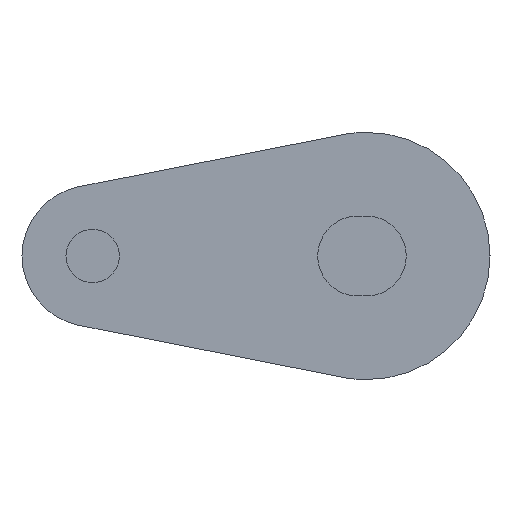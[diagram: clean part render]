
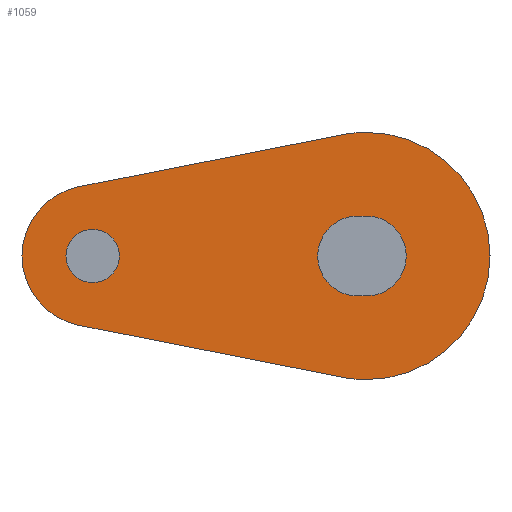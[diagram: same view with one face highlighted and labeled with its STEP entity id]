
A CAD part, left-side view. The second image highlights one B-rep face of the part: STEP entity #1059.
In plain terms, the highlighted planar face has unit normal (-1, 0, 0).
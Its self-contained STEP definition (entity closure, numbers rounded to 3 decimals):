
#1 = EDGE_CURVE ( 'NONE', #388, #339, #942, .T. ) ;
#15 = EDGE_CURVE ( 'NONE', #457, #355, #749, .T. ) ;
#16 = AXIS2_PLACEMENT_3D ( 'NONE', #329, #328, #327 ) ;
#32 = EDGE_CURVE ( 'NONE', #339, #457, #736, .T. ) ;
#53 = EDGE_CURVE ( 'NONE', #392, #388, #725, .T. ) ;
#56 = EDGE_CURVE ( 'NONE', #458, #341, #722, .T. ) ;
#68 = AXIS2_PLACEMENT_3D ( 'NONE', #541, #560, #537 ) ;
#71 = AXIS2_PLACEMENT_3D ( 'NONE', #308, #298, #294 ) ;
#73 = EDGE_CURVE ( 'NONE', #467, #468, #716, .T. ) ;
#74 = AXIS2_PLACEMENT_3D ( 'NONE', #559, #543, #434 ) ;
#81 = EDGE_CURVE ( 'NONE', #468, #343, #724, .T. ) ;
#94 = AXIS2_PLACEMENT_3D ( 'NONE', #472, #471, #470 ) ;
#95 = EDGE_CURVE ( 'NONE', #355, #387, #695, .T. ) ;
#98 = EDGE_CURVE ( 'NONE', #343, #466, #691, .T. ) ;
#109 = EDGE_CURVE ( 'NONE', #466, #467, #682, .T. ) ;
#124 = EDGE_CURVE ( 'NONE', #387, #392, #660, .T. ) ;
#127 = AXIS2_PLACEMENT_3D ( 'NONE', #261, #260, #259 ) ;
#143 = EDGE_CURVE ( 'NONE', #341, #458, #638, .T. ) ;
#153 = AXIS2_PLACEMENT_3D ( 'NONE', #516, #188, #201 ) ;
#155 = AXIS2_PLACEMENT_3D ( 'NONE', #318, #311, #309 ) ;
#160 = AXIS2_PLACEMENT_3D ( 'NONE', #265, #594, #193 ) ;
#164 = DIRECTION ( 'NONE',  ( 0., 0.981, 0.194 ) ) ;
#166 = CARTESIAN_POINT ( 'NONE',  ( -176.5, 16.274, -3.924 ) ) ;
#188 = DIRECTION ( 'NONE',  ( 1., 0., 0. ) ) ;
#193 = DIRECTION ( 'NONE',  ( 0., 0., -1. ) ) ;
#201 = DIRECTION ( 'NONE',  ( 0., 0., -1. ) ) ;
#207 = DIRECTION ( 'NONE',  ( 0., -1., 0. ) ) ;
#208 = CARTESIAN_POINT ( 'NONE',  ( -176.5, 0.5, 2.26 ) ) ;
#258 = CARTESIAN_POINT ( 'NONE',  ( -176.5, 1.355, 6.868 ) ) ;
#259 = DIRECTION ( 'NONE',  ( 0., 0., -1. ) ) ;
#260 = DIRECTION ( 'NONE',  ( 1., 0., 0. ) ) ;
#261 = CARTESIAN_POINT ( 'NONE',  ( -176.5, 0.5, 0. ) ) ;
#265 = CARTESIAN_POINT ( 'NONE',  ( -176.5, 15.5, 0. ) ) ;
#288 = CARTESIAN_POINT ( 'NONE',  ( -176.5, 0., 2.26 ) ) ;
#294 = DIRECTION ( 'NONE',  ( 0., 0., -1. ) ) ;
#298 = DIRECTION ( 'NONE',  ( 1., 0., 0. ) ) ;
#308 = CARTESIAN_POINT ( 'NONE',  ( -176.5, 15.5, 0. ) ) ;
#309 = DIRECTION ( 'NONE',  ( 0., 0., -1. ) ) ;
#311 = DIRECTION ( 'NONE',  ( 1., 0., 0. ) ) ;
#318 = CARTESIAN_POINT ( 'NONE',  ( -176.5, 15.5, 0. ) ) ;
#327 = DIRECTION ( 'NONE',  ( 0., 0., -1. ) ) ;
#328 = DIRECTION ( 'NONE',  ( 1., 0., 0. ) ) ;
#329 = CARTESIAN_POINT ( 'NONE',  ( -176.5, 0., 0. ) ) ;
#335 = CARTESIAN_POINT ( 'NONE',  ( -176.5, 16.274, 3.924 ) ) ;
#336 = DIRECTION ( 'NONE',  ( 0., -0.981, 0.194 ) ) ;
#339 = VERTEX_POINT ( 'NONE', #258 ) ;
#341 = VERTEX_POINT ( 'NONE', #619 ) ;
#343 = VERTEX_POINT ( 'NONE', #288 ) ;
#355 = VERTEX_POINT ( 'NONE', #439 ) ;
#387 = VERTEX_POINT ( 'NONE', #506 ) ;
#388 = VERTEX_POINT ( 'NONE', #518 ) ;
#392 = VERTEX_POINT ( 'NONE', #166 ) ;
#404 = CARTESIAN_POINT ( 'NONE',  ( -176.5, 0., 7. ) ) ;
#408 = CARTESIAN_POINT ( 'NONE',  ( -176.5, 15.5, -1.51 ) ) ;
#411 = CARTESIAN_POINT ( 'NONE',  ( -176.5, 0.5, -2.26 ) ) ;
#416 = CARTESIAN_POINT ( 'NONE',  ( -176.5, 0.5, 2.26 ) ) ;
#417 = CARTESIAN_POINT ( 'NONE',  ( -176.5, 0., -2.26 ) ) ;
#434 = DIRECTION ( 'NONE',  ( 0., 0., -1. ) ) ;
#439 = CARTESIAN_POINT ( 'NONE',  ( -176.5, 0., -7. ) ) ;
#457 = VERTEX_POINT ( 'NONE', #404 ) ;
#458 = VERTEX_POINT ( 'NONE', #408 ) ;
#466 = VERTEX_POINT ( 'NONE', #417 ) ;
#467 = VERTEX_POINT ( 'NONE', #411 ) ;
#468 = VERTEX_POINT ( 'NONE', #416 ) ;
#470 = DIRECTION ( 'NONE',  ( 0., 0., -1. ) ) ;
#471 = DIRECTION ( 'NONE',  ( 1., 0., 0. ) ) ;
#472 = CARTESIAN_POINT ( 'NONE',  ( -176.5, 0., 0. ) ) ;
#489 = PLANE ( 'NONE',  #160 ) ;
#506 = CARTESIAN_POINT ( 'NONE',  ( -176.5, 1.355, -6.868 ) ) ;
#516 = CARTESIAN_POINT ( 'NONE',  ( -176.5, 15.5, 0. ) ) ;
#518 = CARTESIAN_POINT ( 'NONE',  ( -176.5, 16.274, 3.924 ) ) ;
#537 = DIRECTION ( 'NONE',  ( 0., 0., -1. ) ) ;
#541 = CARTESIAN_POINT ( 'NONE',  ( -176.5, 0., 0. ) ) ;
#543 = DIRECTION ( 'NONE',  ( 1., 0., 0. ) ) ;
#544 = CARTESIAN_POINT ( 'NONE',  ( -176.5, 1.355, -6.868 ) ) ;
#559 = CARTESIAN_POINT ( 'NONE',  ( -176.5, 0., 0. ) ) ;
#560 = DIRECTION ( 'NONE',  ( 1., 0., 0. ) ) ;
#570 = CARTESIAN_POINT ( 'NONE',  ( -176.5, 0.5, -2.26 ) ) ;
#571 = DIRECTION ( 'NONE',  ( 0., 1., 0. ) ) ;
#594 = DIRECTION ( 'NONE',  ( -1., 0., 0. ) ) ;
#619 = CARTESIAN_POINT ( 'NONE',  ( -176.5, 15.5, 1.51 ) ) ;
#638 = CIRCLE ( 'NONE', #153, 1.51 ) ;
#659 = VECTOR ( 'NONE', #164, 1000. ) ;
#660 = LINE ( 'NONE', #544, #659 ) ;
#681 = VECTOR ( 'NONE', #571, 1000. ) ;
#682 = LINE ( 'NONE', #570, #681 ) ;
#691 = CIRCLE ( 'NONE', #74, 2.26 ) ;
#695 = CIRCLE ( 'NONE', #68, 7. ) ;
#715 = VECTOR ( 'NONE', #207, 1000. ) ;
#716 = CIRCLE ( 'NONE', #127, 2.26 ) ;
#722 = CIRCLE ( 'NONE', #71, 1.51 ) ;
#724 = LINE ( 'NONE', #208, #715 ) ;
#725 = CIRCLE ( 'NONE', #155, 4. ) ;
#736 = CIRCLE ( 'NONE', #16, 7. ) ;
#749 = CIRCLE ( 'NONE', #94, 7. ) ;
#853 = ORIENTED_EDGE ( 'NONE', *, *, #15, .F. ) ;
#866 = ORIENTED_EDGE ( 'NONE', *, *, #53, .F. ) ;
#867 = ORIENTED_EDGE ( 'NONE', *, *, #32, .F. ) ;
#868 = ORIENTED_EDGE ( 'NONE', *, *, #1, .F. ) ;
#869 = ORIENTED_EDGE ( 'NONE', *, *, #124, .F. ) ;
#870 = ORIENTED_EDGE ( 'NONE', *, *, #95, .F. ) ;
#871 = EDGE_LOOP ( 'NONE', ( #874, #891, #892, #913 ) ) ;
#872 = EDGE_LOOP ( 'NONE', ( #866, #869, #870, #853, #867, #868 ) ) ;
#874 = ORIENTED_EDGE ( 'NONE', *, *, #73, .T. ) ;
#891 = ORIENTED_EDGE ( 'NONE', *, *, #81, .T. ) ;
#892 = ORIENTED_EDGE ( 'NONE', *, *, #98, .T. ) ;
#901 = FACE_OUTER_BOUND ( 'NONE', #872, .T. ) ;
#906 = FACE_BOUND ( 'NONE', #871, .T. ) ;
#913 = ORIENTED_EDGE ( 'NONE', *, *, #109, .T. ) ;
#914 = ORIENTED_EDGE ( 'NONE', *, *, #56, .T. ) ;
#925 = ORIENTED_EDGE ( 'NONE', *, *, #143, .T. ) ;
#942 = LINE ( 'NONE', #335, #943 ) ;
#943 = VECTOR ( 'NONE', #336, 1000. ) ;
#952 = EDGE_LOOP ( 'NONE', ( #914, #925 ) ) ;
#973 = FACE_BOUND ( 'NONE', #952, .T. ) ;
#1059 = ADVANCED_FACE ( 'NONE', ( #906, #973, #901 ), #489, .T. ) ;
